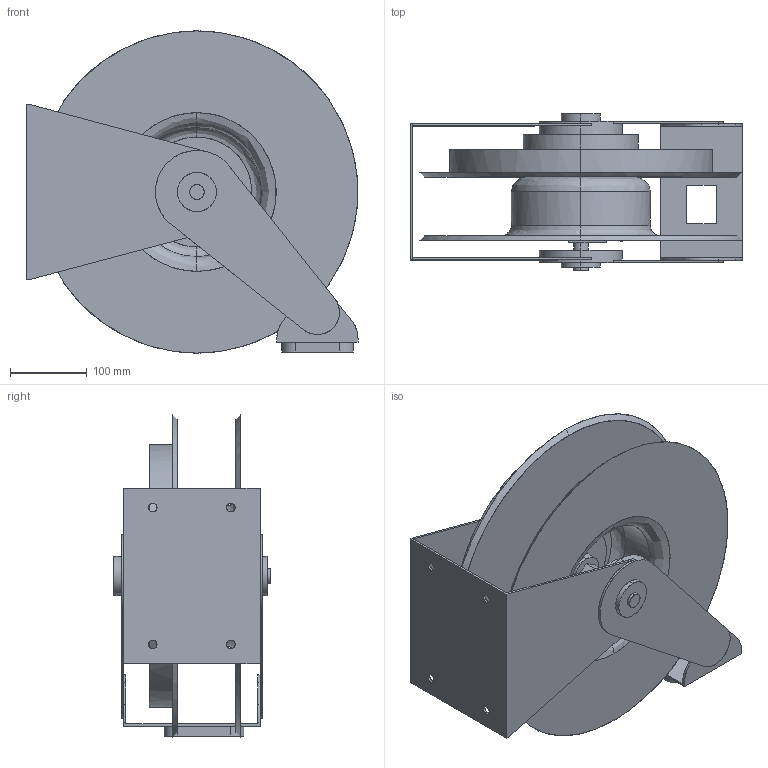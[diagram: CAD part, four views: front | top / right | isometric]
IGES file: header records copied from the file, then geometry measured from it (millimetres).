
Start section: Comment
Global section: file name: DP7000 OXP NARROW.igs; native system:  By UGS Corp.; preprocessor: XPlus GENERIC/IGES 3.0; author: Author; organization: Title; date: 20120808.155910; units: millimetre
Bounding box: 431.8 x 203.2 x 419.1 mm (x, y, z)
Surface area: 1017270.9 mm2 (no closed solid volume)
Topology: 0 solids, 0 shells, 151 faces, 736 edges, 736 vertices
Faces by surface type: bspline 151
